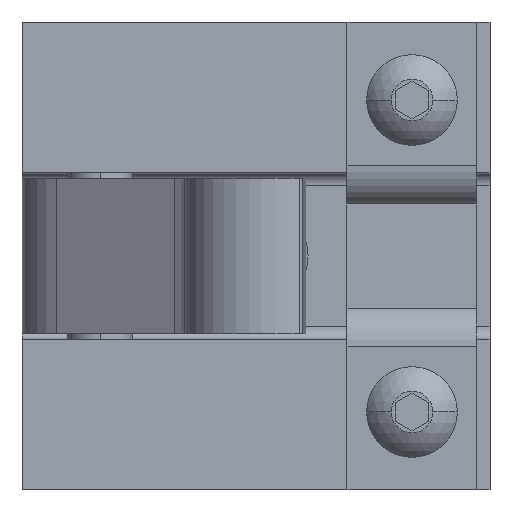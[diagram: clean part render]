
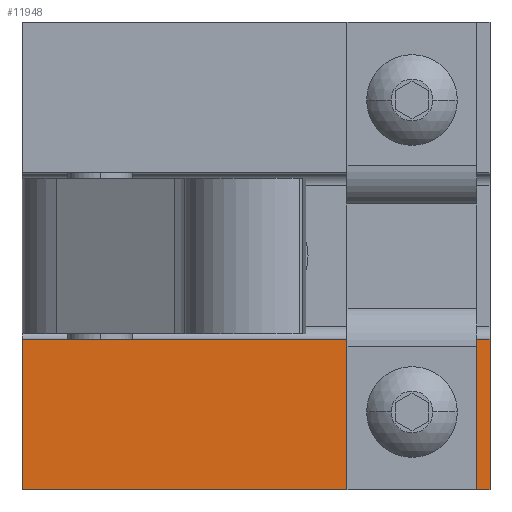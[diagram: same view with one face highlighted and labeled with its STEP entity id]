
A CAD part, left-side view. The second image highlights one B-rep face of the part: STEP entity #11948.
In plain terms, the highlighted planar face has unit normal (-1, 0, 0).
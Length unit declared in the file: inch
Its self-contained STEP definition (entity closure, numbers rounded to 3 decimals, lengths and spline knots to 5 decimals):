
#10830 = VERTEX_POINT ( 'NONE', #19897 ) ;
#10894 = VERTEX_POINT ( 'NONE', #20153 ) ;
#10993 = VERTEX_POINT ( 'NONE', #20285 ) ;
#10995 = EDGE_CURVE ( 'NONE', #10993, #10830, #20455, .T. ) ;
#10996 = EDGE_CURVE ( 'NONE', #10894, #11090, #20399, .T. ) ;
#11090 = VERTEX_POINT ( 'NONE', #20332 ) ;
#11916 = ORIENTED_EDGE ( 'NONE', *, *, #10996, .F. ) ;
#11918 = ORIENTED_EDGE ( 'NONE', *, *, #11920, .T. ) ;
#11920 = EDGE_CURVE ( 'NONE', #10894, #12067, #22342, .T. ) ;
#11948 = ADVANCED_FACE ( 'NONE', ( #22623, #22587 ), #22638, .T. ) ;
#11949 = EDGE_LOOP ( 'NONE', ( #11950, #11960 ) ) ;
#11950 = ORIENTED_EDGE ( 'NONE', *, *, #11959, .F. ) ;
#11959 = EDGE_CURVE ( 'NONE', #10830, #10993, #22514, .T. ) ;
#11960 = ORIENTED_EDGE ( 'NONE', *, *, #10995, .F. ) ;
#11961 = EDGE_LOOP ( 'NONE', ( #11962, #11916, #11918, #11968 ) ) ;
#11962 = ORIENTED_EDGE ( 'NONE', *, *, #11963, .F. ) ;
#11963 = EDGE_CURVE ( 'NONE', #11090, #11964, #22515, .T. ) ;
#11964 = VERTEX_POINT ( 'NONE', #22633 ) ;
#11968 = ORIENTED_EDGE ( 'NONE', *, *, #11969, .T. ) ;
#11969 = EDGE_CURVE ( 'NONE', #12067, #11964, #22557, .T. ) ;
#12067 = VERTEX_POINT ( 'NONE', #22516 ) ;
#19897 = CARTESIAN_POINT ( 'NONE',  ( 7.43951, 4.12904, -1.75 ) ) ;
#20153 = CARTESIAN_POINT ( 'NONE',  ( 7.43951, 6.00404, -2.25 ) ) ;
#20278 = DIRECTION ( 'NONE',  ( -1., 0., 0. ) ) ;
#20279 = CARTESIAN_POINT ( 'NONE',  ( 7.43951, 4.12904, -1.875 ) ) ;
#20280 = AXIS2_PLACEMENT_3D ( 'NONE', #20279, #20278, #20299 ) ;
#20285 = CARTESIAN_POINT ( 'NONE',  ( 7.43951, 4.12904, -2. ) ) ;
#20299 = DIRECTION ( 'NONE',  ( 0., 0., 1. ) ) ;
#20332 = CARTESIAN_POINT ( 'NONE',  ( 7.43951, 6.00404, -1.525 ) ) ;
#20346 = DIRECTION ( 'NONE',  ( 0., 0., 1. ) ) ;
#20347 = VECTOR ( 'NONE', #20346, 39.37008 ) ;
#20348 = CARTESIAN_POINT ( 'NONE',  ( 7.43951, 6.00404, -2.25 ) ) ;
#20399 = LINE ( 'NONE', #20348, #20347 ) ;
#20455 = CIRCLE ( 'NONE', #20280, 0.125 ) ;
#22339 = DIRECTION ( 'NONE',  ( 0., -1., 0. ) ) ;
#22340 = VECTOR ( 'NONE', #22339, 39.37008 ) ;
#22341 = CARTESIAN_POINT ( 'NONE',  ( 7.43951, 3.75404, -2.25 ) ) ;
#22342 = LINE ( 'NONE', #22341, #22340 ) ;
#22510 = DIRECTION ( 'NONE',  ( 0., 0., 1. ) ) ;
#22511 = DIRECTION ( 'NONE',  ( -1., 0., 0. ) ) ;
#22512 = CARTESIAN_POINT ( 'NONE',  ( 7.43951, 4.12904, -1.875 ) ) ;
#22513 = AXIS2_PLACEMENT_3D ( 'NONE', #22512, #22511, #22510 ) ;
#22514 = CIRCLE ( 'NONE', #22513, 0.125 ) ;
#22515 = LINE ( 'NONE', #22636, #22635 ) ;
#22516 = CARTESIAN_POINT ( 'NONE',  ( 7.43951, 3.75404, -2.25 ) ) ;
#22533 = DIRECTION ( 'NONE',  ( 0., 0., 1. ) ) ;
#22554 = DIRECTION ( 'NONE',  ( 0., 0., 1. ) ) ;
#22555 = VECTOR ( 'NONE', #22554, 39.37008 ) ;
#22556 = CARTESIAN_POINT ( 'NONE',  ( 7.43951, 3.75404, -2.25 ) ) ;
#22557 = LINE ( 'NONE', #22556, #22555 ) ;
#22587 = FACE_OUTER_BOUND ( 'NONE', #11961, .T. ) ;
#22623 = FACE_BOUND ( 'NONE', #11949, .T. ) ;
#22633 = CARTESIAN_POINT ( 'NONE',  ( 7.43951, 3.75404, -1.525 ) ) ;
#22634 = DIRECTION ( 'NONE',  ( 0., -1., 0. ) ) ;
#22635 = VECTOR ( 'NONE', #22634, 39.37008 ) ;
#22636 = CARTESIAN_POINT ( 'NONE',  ( 7.43951, 3.75404, -1.525 ) ) ;
#22637 = DIRECTION ( 'NONE',  ( -1., 0., 0. ) ) ;
#22638 = PLANE ( 'NONE',  #22640 ) ;
#22639 = CARTESIAN_POINT ( 'NONE',  ( 7.43951, 3.75404, -2.25 ) ) ;
#22640 = AXIS2_PLACEMENT_3D ( 'NONE', #22639, #22637, #22533 ) ;
